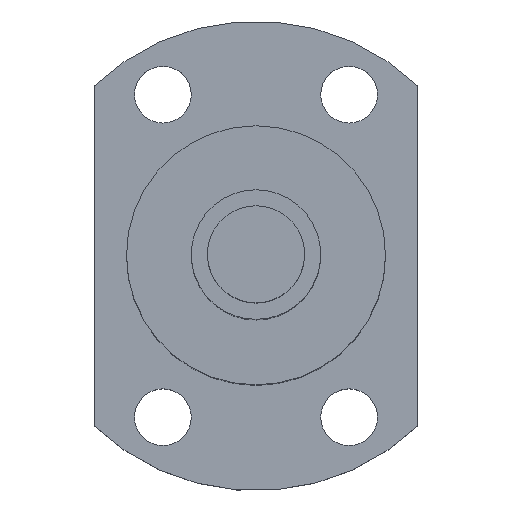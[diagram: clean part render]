
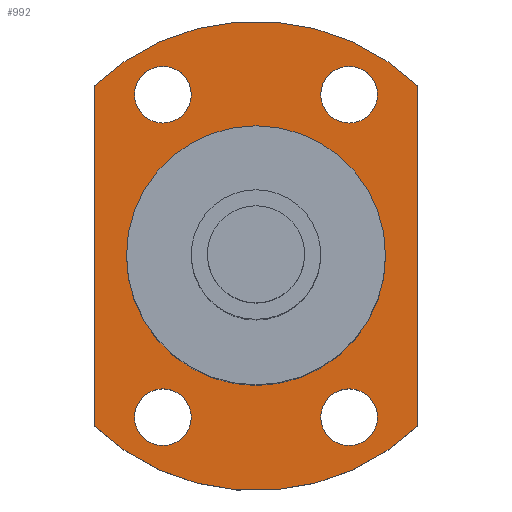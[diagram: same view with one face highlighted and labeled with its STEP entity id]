
A CAD part, top view. The second image highlights one B-rep face of the part: STEP entity #992.
In plain terms, the highlighted planar face has unit normal (0, 0, 1).
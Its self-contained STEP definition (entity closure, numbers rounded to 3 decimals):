
#219=CARTESIAN_POINT('',(5.75,9.959,80.));
#220=DIRECTION('',(0.,0.,-1.));
#221=DIRECTION('',(1.,0.,0.));
#222=AXIS2_PLACEMENT_3D('',#219,#220,#221);
#224=CARTESIAN_POINT('',(5.75,9.959,80.));
#225=DIRECTION('',(0.,0.,-1.));
#226=DIRECTION('',(-1.,0.,0.));
#227=AXIS2_PLACEMENT_3D('',#224,#225,#226);
#229=CARTESIAN_POINT('',(-5.75,9.959,80.));
#230=DIRECTION('',(0.,0.,-1.));
#231=DIRECTION('',(1.,0.,0.));
#232=AXIS2_PLACEMENT_3D('',#229,#230,#231);
#234=CARTESIAN_POINT('',(-5.75,9.959,80.));
#235=DIRECTION('',(0.,0.,-1.));
#236=DIRECTION('',(-1.,0.,0.));
#237=AXIS2_PLACEMENT_3D('',#234,#235,#236);
#239=CARTESIAN_POINT('',(5.75,-9.959,80.));
#240=DIRECTION('',(0.,0.,-1.));
#241=DIRECTION('',(1.,0.,0.));
#242=AXIS2_PLACEMENT_3D('',#239,#240,#241);
#244=CARTESIAN_POINT('',(5.75,-9.959,80.));
#245=DIRECTION('',(0.,0.,-1.));
#246=DIRECTION('',(-1.,0.,0.));
#247=AXIS2_PLACEMENT_3D('',#244,#245,#246);
#249=CARTESIAN_POINT('',(-5.75,-9.959,80.));
#250=DIRECTION('',(0.,0.,-1.));
#251=DIRECTION('',(1.,0.,0.));
#252=AXIS2_PLACEMENT_3D('',#249,#250,#251);
#254=CARTESIAN_POINT('',(-5.75,-9.959,80.));
#255=DIRECTION('',(0.,0.,-1.));
#256=DIRECTION('',(-1.,0.,0.));
#257=AXIS2_PLACEMENT_3D('',#254,#255,#256);
#259=CARTESIAN_POINT('',(0.,0.,80.));
#260=DIRECTION('',(0.,0.,1.));
#261=DIRECTION('',(0.69,0.724,0.));
#262=AXIS2_PLACEMENT_3D('',#259,#260,#261);
#264=DIRECTION('',(0.,1.,0.));
#265=VECTOR('',#264,21.);
#266=CARTESIAN_POINT('',(10.,-10.5,80.));
#267=LINE('',#266,#265);
#268=CARTESIAN_POINT('',(0.,0.,80.));
#269=DIRECTION('',(0.,0.,1.));
#270=DIRECTION('',(-0.69,-0.724,0.));
#271=AXIS2_PLACEMENT_3D('',#268,#269,#270);
#273=DIRECTION('',(0.,-1.,0.));
#274=VECTOR('',#273,21.);
#275=CARTESIAN_POINT('',(-10.,10.5,80.));
#276=LINE('',#275,#274);
#277=CARTESIAN_POINT('',(0.,0.,80.));
#278=DIRECTION('',(0.,0.,1.));
#279=DIRECTION('',(1.,0.,0.));
#280=AXIS2_PLACEMENT_3D('',#277,#278,#279);
#282=CARTESIAN_POINT('',(0.,0.,80.));
#283=DIRECTION('',(0.,0.,1.));
#284=DIRECTION('',(-1.,0.,0.));
#285=AXIS2_PLACEMENT_3D('',#282,#283,#284);
#573=CARTESIAN_POINT('',(7.5,9.959,80.));
#574=CARTESIAN_POINT('',(4.,9.959,80.));
#575=VERTEX_POINT('',#573);
#576=VERTEX_POINT('',#574);
#577=CARTESIAN_POINT('',(-4.,9.959,80.));
#578=CARTESIAN_POINT('',(-7.5,9.959,80.));
#579=VERTEX_POINT('',#577);
#580=VERTEX_POINT('',#578);
#581=CARTESIAN_POINT('',(7.5,-9.959,80.));
#582=CARTESIAN_POINT('',(4.,-9.959,80.));
#583=VERTEX_POINT('',#581);
#584=VERTEX_POINT('',#582);
#585=CARTESIAN_POINT('',(-4.,-9.959,80.));
#586=CARTESIAN_POINT('',(-7.5,-9.959,80.));
#587=VERTEX_POINT('',#585);
#588=VERTEX_POINT('',#586);
#589=CARTESIAN_POINT('',(-10.,10.5,80.));
#590=CARTESIAN_POINT('',(-10.,-10.5,80.));
#591=VERTEX_POINT('',#589);
#592=VERTEX_POINT('',#590);
#593=CARTESIAN_POINT('',(10.,-10.5,80.));
#594=CARTESIAN_POINT('',(10.,10.5,80.));
#595=VERTEX_POINT('',#593);
#596=VERTEX_POINT('',#594);
#605=CARTESIAN_POINT('',(8.,0.,80.));
#606=CARTESIAN_POINT('',(-8.,0.,80.));
#607=VERTEX_POINT('',#605);
#608=VERTEX_POINT('',#606);
#949=CARTESIAN_POINT('',(0.,0.,80.));
#950=DIRECTION('',(0.,0.,1.));
#951=DIRECTION('',(1.,0.,0.));
#952=AXIS2_PLACEMENT_3D('',#949,#950,#951);
#953=PLANE('',#952);
#955=ORIENTED_EDGE('',*,*,#954,.F.);
#957=ORIENTED_EDGE('',*,*,#956,.F.);
#959=ORIENTED_EDGE('',*,*,#958,.F.);
#961=ORIENTED_EDGE('',*,*,#960,.F.);
#962=EDGE_LOOP('',(#955,#957,#959,#961));
#963=FACE_OUTER_BOUND('',#962,.F.);
#964=ORIENTED_EDGE('',*,*,#929,.F.);
#965=ORIENTED_EDGE('',*,*,#943,.F.);
#966=EDGE_LOOP('',(#964,#965));
#967=FACE_BOUND('',#966,.F.);
#969=ORIENTED_EDGE('',*,*,#968,.F.);
#971=ORIENTED_EDGE('',*,*,#970,.F.);
#972=EDGE_LOOP('',(#969,#971));
#973=FACE_BOUND('',#972,.F.);
#975=ORIENTED_EDGE('',*,*,#974,.F.);
#977=ORIENTED_EDGE('',*,*,#976,.F.);
#978=EDGE_LOOP('',(#975,#977));
#979=FACE_BOUND('',#978,.F.);
#981=ORIENTED_EDGE('',*,*,#980,.F.);
#983=ORIENTED_EDGE('',*,*,#982,.F.);
#984=EDGE_LOOP('',(#981,#983));
#985=FACE_BOUND('',#984,.F.);
#987=ORIENTED_EDGE('',*,*,#986,.T.);
#989=ORIENTED_EDGE('',*,*,#988,.T.);
#990=EDGE_LOOP('',(#987,#989));
#991=FACE_BOUND('',#990,.F.);
#992=ADVANCED_FACE('',(#963,#967,#973,#979,#985,#991),#953,.T.);
#223=CIRCLE('',#222,1.75);
#228=CIRCLE('',#227,1.75);
#233=CIRCLE('',#232,1.75);
#238=CIRCLE('',#237,1.75);
#243=CIRCLE('',#242,1.75);
#248=CIRCLE('',#247,1.75);
#253=CIRCLE('',#252,1.75);
#258=CIRCLE('',#257,1.75);
#263=CIRCLE('',#262,14.5);
#272=CIRCLE('',#271,14.5);
#281=CIRCLE('',#280,8.);
#286=CIRCLE('',#285,8.);
#929=EDGE_CURVE('',#575,#576,#223,.T.);
#943=EDGE_CURVE('',#576,#575,#228,.T.);
#954=EDGE_CURVE('',#596,#591,#263,.T.);
#956=EDGE_CURVE('',#595,#596,#267,.T.);
#958=EDGE_CURVE('',#592,#595,#272,.T.);
#960=EDGE_CURVE('',#591,#592,#276,.T.);
#968=EDGE_CURVE('',#579,#580,#233,.T.);
#970=EDGE_CURVE('',#580,#579,#238,.T.);
#974=EDGE_CURVE('',#583,#584,#243,.T.);
#976=EDGE_CURVE('',#584,#583,#248,.T.);
#980=EDGE_CURVE('',#587,#588,#253,.T.);
#982=EDGE_CURVE('',#588,#587,#258,.T.);
#986=EDGE_CURVE('',#607,#608,#281,.T.);
#988=EDGE_CURVE('',#608,#607,#286,.T.);
